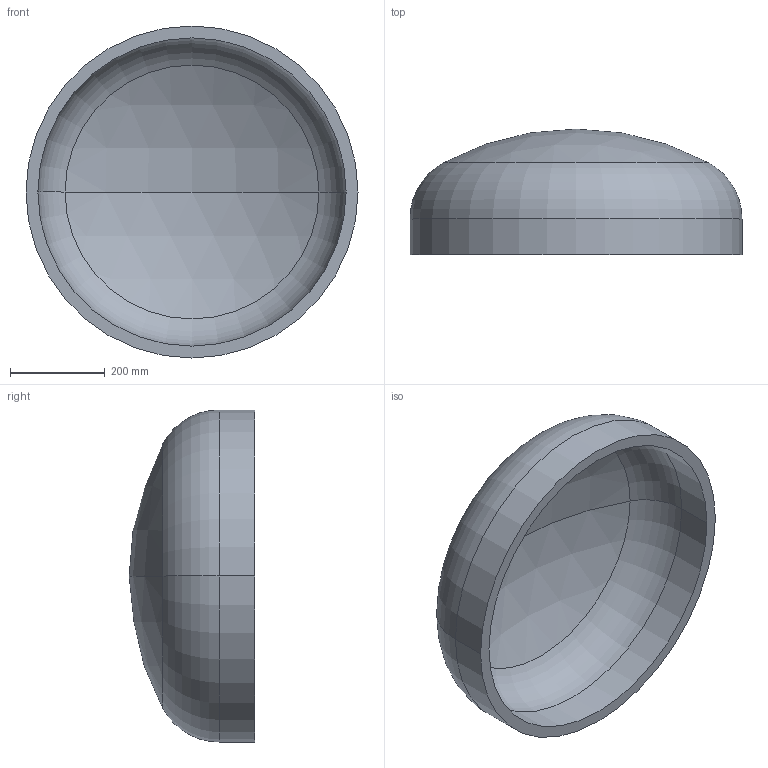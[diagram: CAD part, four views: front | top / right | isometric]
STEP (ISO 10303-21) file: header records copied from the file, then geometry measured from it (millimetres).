
FILE_DESCRIPTION (( 'STEP AP203' ), '1' );
FILE_NAME ('DIN 28013 Korbbogenform_-_Boden DIN 28013 - 700 x 75 - I - s=25.step', '2016-07-01T08:05:50', ( '' ), ( '' ), 'SwSTEP 2.0', 'SolidWorks 2013', '' );
FILE_SCHEMA (( 'CONFIG_CONTROL_DESIGN' ));
Length unit declared in the file: millimetre
Products named in the file (1): DIN 28013 Korbbogenform_-_Boden DIN 28013 - 700 x 75 - I - s=25
Bounding box: 700 x 264.68 x 700 mm (x, y, z)
Volume: 16749004.6 mm3; surface area: 1394243.4 mm2
Topology: 1 solids, 1 shells, 13 faces, 24 edges, 14 vertices
Faces by surface type: torus 4, cylinder 4, sphere 4, plane 1
Entity records: 407 total; most frequent: DIRECTION 72, CARTESIAN_POINT 52, ORIENTED_EDGE 48, AXIS2_PLACEMENT_3D 34, EDGE_CURVE 24, CIRCLE 20, VERTEX_POINT 14, EDGE_LOOP 14
